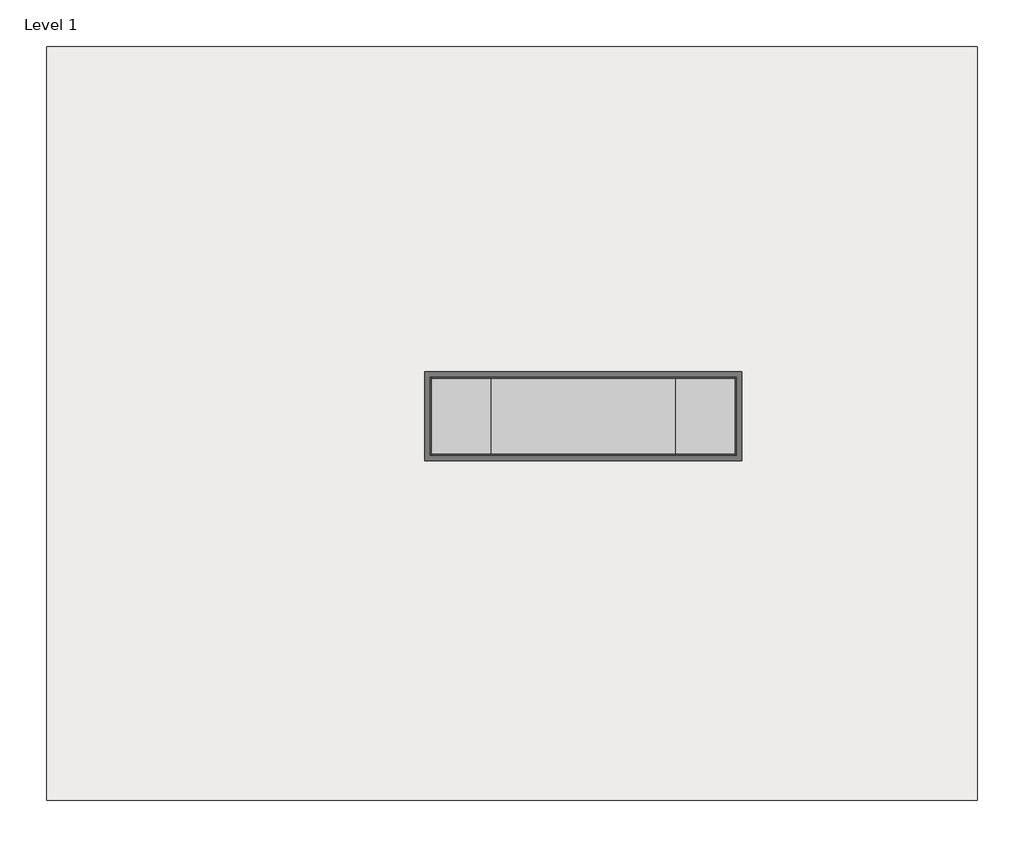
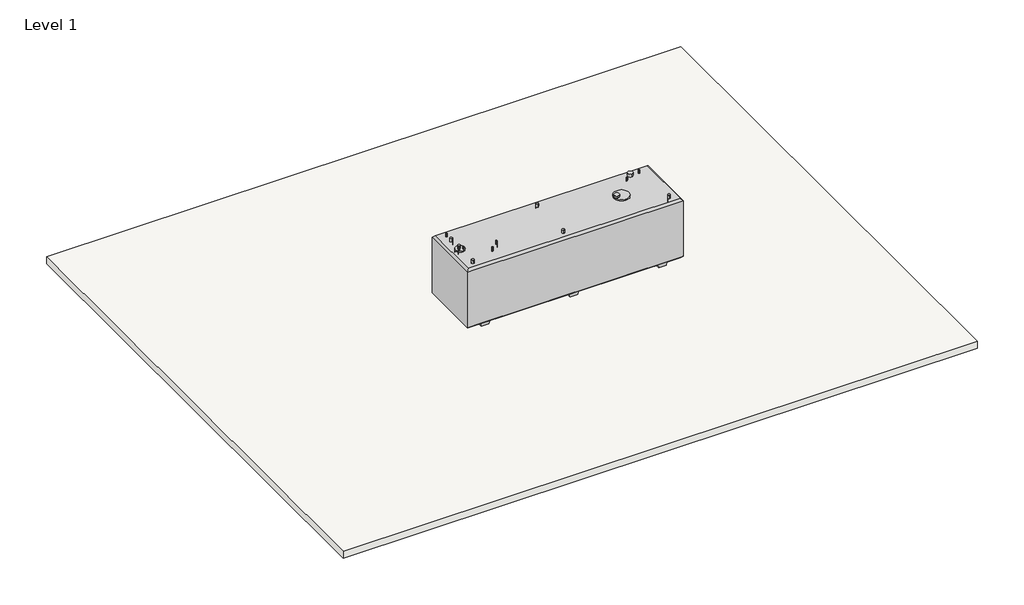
# One storey: 1 proxy, 1 slab.
"""IFC4 building model written with IfcOpenShell, lengths in millimetres."""

from ifc_helpers import new_model, si_unit, frame, origin, place, context, project, spatial, polyline, outline, extrude, transform, mapped, element, save
from components import generic_models_97f52d0d

model = new_model("IFC4")

# Units and contexts
model_context = context("Model", 3, world=origin())
ifc_project = project(units=[si_unit("LENGTHUNIT", "METRE", prefix="MILLI")], contexts=[model_context])

# Site, building, storey
site = spatial("IfcSite", under=ifc_project)
building = spatial("IfcBuilding", under=site)
storey = spatial("IfcBuildingStorey", under=building, Name="Level 1", Elevation=0.0)

# Proxy
placement = place(None, origin())
generic_models_shape = generic_models_97f52d0d(model_context)
element("IfcBuildingElementProxy", 1, Name="Convault Tank Family 88153032 : Convault Tank Family 88153032", ObjectType="Convault Tank Family 88153032 : Convault Tank Family 88153032", at=placement, inside=storey, context=model_context, shape_type="MappedRepresentation", body=[
    mapped(generic_models_shape, transform((1605.5333309, 2179.7597943, 0.0), x_axis=(1.0, 0.0, 0.0), y_axis=(0.0, 1.0, 0.0), z_axis=(0.0, 0.0, 1.0))),
])

# Slab
element("IfcSlab", 2, ObjectType="Generic - 12\"", at=placement, inside=storey, context=model_context, shape_type="SweptSolid", body=[
    extrude(outline(polyline([(12446.9560906, 12349.2639914), (12446.9560906, -8377.1360086), (-13156.2439094, -8377.1360086), (-13156.2439094, 12349.2639914), (12446.9560906, 12349.2639914)])), frame((0.0, 0.0, -304.8), z_axis=(0.0, 0.0, 1.0), x_axis=(1.0, 0.0, 0.0)), (0.0, 0.0, 1.0), 304.8),
])

save(model, "model.ifc")
